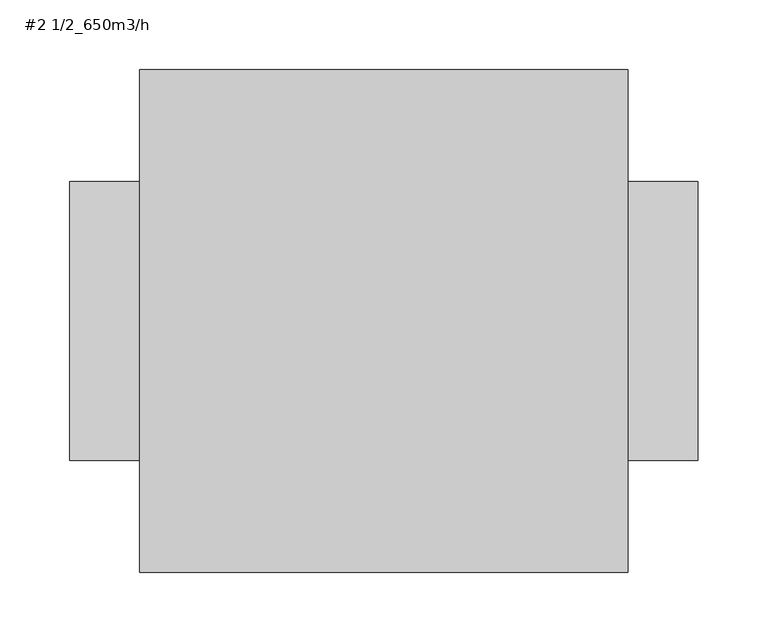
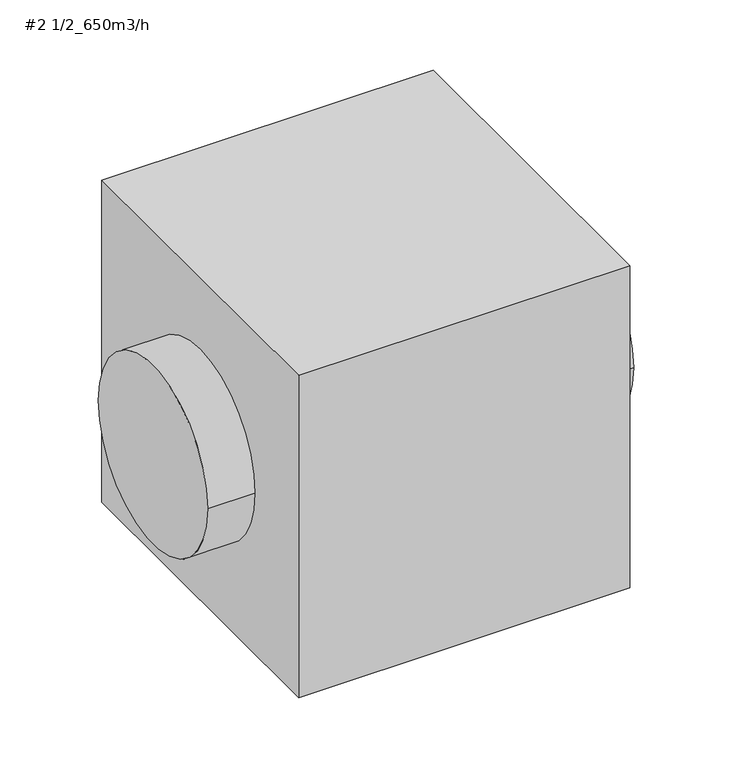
"""IFC4 building model written with IfcOpenShell, lengths in millimetres: unitary equipment geometry, 11021_FAN_斜流送風機 : #2 1/2_650m3/h."""

from ifc_helpers import new_model, si_unit, point, frame, origin, origin_2d, place, context, project, spatial, polyline, circle_curve, trimmed, segment, composite_curve, outline, extrude, source, transform, mapped, element, save


def unitary_equipment_2_1_2_650m3_h_d17ee650(model_context):
    return source(origin(), model_context, "Body", "SweptSolid", [
        extrude(outline(composite_curve([segment(trimmed(circle_curve(origin_2d(), 100.0), [point((-100.0, 0.0))], [point((100.0, 0.0))], False, "CARTESIAN"), True, "CONTINUOUS"), segment(trimmed(circle_curve(origin_2d(), 100.0), [point((100.0, 0.0))], [point((-100.0, 0.0))], False, "CARTESIAN"), True, "CONTINUOUS")], self_intersect=False)), frame((175.0, 0.0, 0.0), z_axis=(1.0, 0.0, 0.0), x_axis=(0.0, 1.0, 0.0)), (0.0, 0.0, 1.0), 50.0),
        extrude(outline(composite_curve([segment(trimmed(circle_curve(origin_2d(), 100.0), [point((-100.0, 0.0))], [point((100.0, 0.0))], False, "CARTESIAN"), True, "CONTINUOUS"), segment(trimmed(circle_curve(origin_2d(), 100.0), [point((100.0, 0.0))], [point((-100.0, 0.0))], False, "CARTESIAN"), True, "CONTINUOUS")], self_intersect=False)), frame((-225.0, 0.0, 0.0), z_axis=(1.0, 0.0, 0.0), x_axis=(0.0, 1.0, 0.0)), (0.0, 0.0, 1.0), 50.0),
        extrude(outline(polyline([(175.0, -180.0), (-175.0, -180.0), (-175.0, 180.0), (175.0, 180.0), (175.0, -180.0)])), frame((0.0, 0.0, -180.0), z_axis=(0.0, 0.0, 1.0), x_axis=(1.0, 0.0, 0.0)), (0.0, 0.0, 1.0), 360.0),
    ])


if __name__ == "__main__":
    model = new_model("IFC4")
    model_context = context("Model", 3, world=origin())
    ifc_project = project(units=[si_unit("LENGTHUNIT", "METRE", prefix="MILLI")], contexts=[model_context])
    site = spatial("IfcSite", under=ifc_project)
    building = spatial("IfcBuilding", under=site)
    placement = place(None, origin())
    unitary_equipment_2_1_2_650m3_h_shape = unitary_equipment_2_1_2_650m3_h_d17ee650(model_context)
    element("IfcUnitaryEquipment", 1, ObjectType="11021_FAN_斜流送風機 : #2 1/2_650m3/h", at=placement, inside=building, context=model_context, shape_type="MappedRepresentation", body=[
        mapped(unitary_equipment_2_1_2_650m3_h_shape, transform((0.0, 0.0, 0.0), x_axis=(1.0, 0.0, 0.0), y_axis=(0.0, 1.0, 0.0), z_axis=(0.0, 0.0, 1.0))),
    ])
    save(model, "model.ifc")
